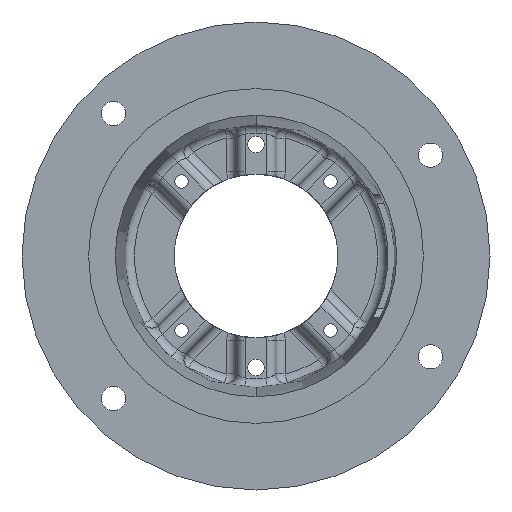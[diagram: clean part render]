
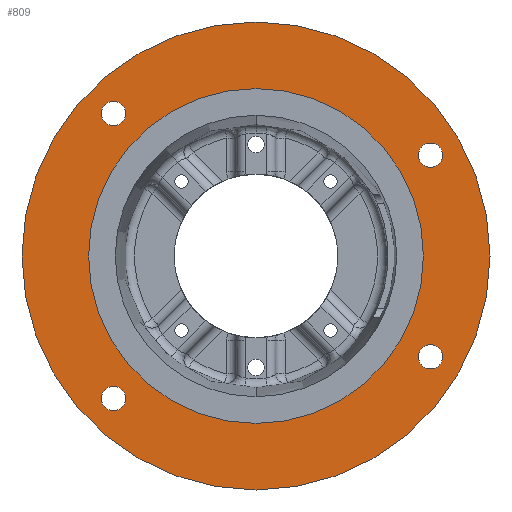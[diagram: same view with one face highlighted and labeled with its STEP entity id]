
A CAD part, front view. The second image highlights one B-rep face of the part: STEP entity #809.
In plain terms, the highlighted planar face has unit normal (0, -1, 0).
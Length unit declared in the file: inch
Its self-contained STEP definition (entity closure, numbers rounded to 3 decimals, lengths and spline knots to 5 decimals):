
#106 = CIRCLE ( 'NONE', #4199, 4.5 ) ;
#118 = CARTESIAN_POINT ( 'NONE',  ( 0., 0., 3.2195 ) ) ;
#171 = CARTESIAN_POINT ( 'NONE',  ( 3.35585, 0., -1.70312 ) ) ;
#178 = ORIENTED_EDGE ( 'NONE', *, *, #4939, .F. ) ;
#211 = ORIENTED_EDGE ( 'NONE', *, *, #4820, .F. ) ;
#241 = AXIS2_PLACEMENT_3D ( 'NONE', #5957, #5695, #5667 ) ;
#469 = EDGE_CURVE ( 'NONE', #3183, #2778, #1679, .T. ) ;
#599 = CIRCLE ( 'NONE', #887, 0.23438 ) ;
#625 = AXIS2_PLACEMENT_3D ( 'NONE', #2196, #2189, #2164 ) ;
#628 = FACE_OUTER_BOUND ( 'NONE', #2964, .T. ) ;
#656 = EDGE_LOOP ( 'NONE', ( #178, #4675 ) ) ;
#680 = AXIS2_PLACEMENT_3D ( 'NONE', #5792, #5791, #5784 ) ;
#764 = VERTEX_POINT ( 'NONE', #3947 ) ;
#809 = ADVANCED_FACE ( 'NONE', ( #4704, #6030, #4877, #3337, #1982, #628 ), #6156, .F. ) ;
#853 = CIRCLE ( 'NONE', #5675, 0.23437 ) ;
#871 = VERTEX_POINT ( 'NONE', #2129 ) ;
#878 = VERTEX_POINT ( 'NONE', #1727 ) ;
#887 = AXIS2_PLACEMENT_3D ( 'NONE', #4739, #4736, #4729 ) ;
#1280 = VERTEX_POINT ( 'NONE', #5132 ) ;
#1314 = CIRCLE ( 'NONE', #1551, 3.2195 ) ;
#1391 = CIRCLE ( 'NONE', #680, 0.23438 ) ;
#1405 = CIRCLE ( 'NONE', #3820, 0.23438 ) ;
#1551 = AXIS2_PLACEMENT_3D ( 'NONE', #4052, #4044, #4043 ) ;
#1679 = CIRCLE ( 'NONE', #625, 4.5 ) ;
#1727 = CARTESIAN_POINT ( 'NONE',  ( 3.35585, 0., -2.17187 ) ) ;
#1982 = FACE_BOUND ( 'NONE', #2239, .T. ) ;
#1984 = VERTEX_POINT ( 'NONE', #2826 ) ;
#2037 = AXIS2_PLACEMENT_3D ( 'NONE', #2431, #2422, #2419 ) ;
#2129 = CARTESIAN_POINT ( 'NONE',  ( 3.35585, 0., 1.70313 ) ) ;
#2164 = DIRECTION ( 'NONE',  ( 0., 0., -1. ) ) ;
#2180 = VERTEX_POINT ( 'NONE', #5464 ) ;
#2189 = DIRECTION ( 'NONE',  ( 0., -1., 0. ) ) ;
#2196 = CARTESIAN_POINT ( 'NONE',  ( 0., 0., 0. ) ) ;
#2239 = EDGE_LOOP ( 'NONE', ( #3622, #6351 ) ) ;
#2419 = DIRECTION ( 'NONE',  ( 0., 0., -1. ) ) ;
#2422 = DIRECTION ( 'NONE',  ( 0., -1., 0. ) ) ;
#2431 = CARTESIAN_POINT ( 'NONE',  ( 0., 0., 0. ) ) ;
#2505 = ORIENTED_EDGE ( 'NONE', *, *, #5520, .F. ) ;
#2636 = VERTEX_POINT ( 'NONE', #4931 ) ;
#2778 = VERTEX_POINT ( 'NONE', #5151 ) ;
#2779 = ORIENTED_EDGE ( 'NONE', *, *, #3527, .F. ) ;
#2826 = CARTESIAN_POINT ( 'NONE',  ( 0., 0., -3.2195 ) ) ;
#2964 = EDGE_LOOP ( 'NONE', ( #6330, #3975 ) ) ;
#2992 = DIRECTION ( 'NONE',  ( 0., 0., -1. ) ) ;
#3001 = DIRECTION ( 'NONE',  ( 0., -1., 0. ) ) ;
#3003 = CARTESIAN_POINT ( 'NONE',  ( 3.35585, 0., 1.9375 ) ) ;
#3007 = VERTEX_POINT ( 'NONE', #118 ) ;
#3049 = AXIS2_PLACEMENT_3D ( 'NONE', #5569, #5561, #5554 ) ;
#3161 = DIRECTION ( 'NONE',  ( 0., 0., -1. ) ) ;
#3181 = DIRECTION ( 'NONE',  ( 0., -1., 0. ) ) ;
#3183 = VERTEX_POINT ( 'NONE', #5700 ) ;
#3188 = CARTESIAN_POINT ( 'NONE',  ( 0., 0., 0. ) ) ;
#3337 = FACE_BOUND ( 'NONE', #5242, .T. ) ;
#3438 = CIRCLE ( 'NONE', #2037, 3.2195 ) ;
#3527 = EDGE_CURVE ( 'NONE', #2636, #5327, #3844, .T. ) ;
#3588 = DIRECTION ( 'NONE',  ( 0., 0., -1. ) ) ;
#3591 = DIRECTION ( 'NONE',  ( 0., -1., 0. ) ) ;
#3603 = CARTESIAN_POINT ( 'NONE',  ( 3.35585, 0., -1.9375 ) ) ;
#3622 = ORIENTED_EDGE ( 'NONE', *, *, #5128, .F. ) ;
#3624 = CARTESIAN_POINT ( 'NONE',  ( -2.74004, 0., 2.50566 ) ) ;
#3795 = DIRECTION ( 'NONE',  ( 0., 0., -1. ) ) ;
#3799 = DIRECTION ( 'NONE',  ( 0., -1., 0. ) ) ;
#3801 = CARTESIAN_POINT ( 'NONE',  ( -2.74004, 0., -2.74004 ) ) ;
#3804 = EDGE_CURVE ( 'NONE', #2778, #3183, #106, .T. ) ;
#3820 = AXIS2_PLACEMENT_3D ( 'NONE', #3003, #3001, #2992 ) ;
#3844 = CIRCLE ( 'NONE', #5716, 0.23438 ) ;
#3947 = CARTESIAN_POINT ( 'NONE',  ( -2.74004, 0., -2.50566 ) ) ;
#3955 = EDGE_CURVE ( 'NONE', #3007, #1984, #3438, .T. ) ;
#3975 = ORIENTED_EDGE ( 'NONE', *, *, #3804, .T. ) ;
#4043 = DIRECTION ( 'NONE',  ( 0., 0., -1. ) ) ;
#4044 = DIRECTION ( 'NONE',  ( 0., -1., 0. ) ) ;
#4052 = CARTESIAN_POINT ( 'NONE',  ( 0., 0., 0. ) ) ;
#4071 = AXIS2_PLACEMENT_3D ( 'NONE', #5307, #5297, #5293 ) ;
#4199 = AXIS2_PLACEMENT_3D ( 'NONE', #3188, #3181, #3161 ) ;
#4290 = ORIENTED_EDGE ( 'NONE', *, *, #4899, .F. ) ;
#4519 = DIRECTION ( 'NONE',  ( 0., 0., -1. ) ) ;
#4524 = DIRECTION ( 'NONE',  ( 0., -1., 0. ) ) ;
#4536 = CARTESIAN_POINT ( 'NONE',  ( -2.74004, 0., 2.74004 ) ) ;
#4675 = ORIENTED_EDGE ( 'NONE', *, *, #5315, .F. ) ;
#4704 = FACE_BOUND ( 'NONE', #5083, .T. ) ;
#4729 = DIRECTION ( 'NONE',  ( 0., 0., -1. ) ) ;
#4736 = DIRECTION ( 'NONE',  ( 0., -1., 0. ) ) ;
#4739 = CARTESIAN_POINT ( 'NONE',  ( -2.74004, 0., 2.74004 ) ) ;
#4741 = EDGE_LOOP ( 'NONE', ( #4290, #5407 ) ) ;
#4778 = CIRCLE ( 'NONE', #6312, 0.23438 ) ;
#4820 = EDGE_CURVE ( 'NONE', #871, #1280, #1391, .T. ) ;
#4877 = FACE_BOUND ( 'NONE', #4741, .T. ) ;
#4899 = EDGE_CURVE ( 'NONE', #2180, #764, #6299, .T. ) ;
#4931 = CARTESIAN_POINT ( 'NONE',  ( -2.74004, 0., 2.97441 ) ) ;
#4939 = EDGE_CURVE ( 'NONE', #878, #6535, #6143, .T. ) ;
#5067 = EDGE_CURVE ( 'NONE', #5327, #2636, #599, .T. ) ;
#5083 = EDGE_LOOP ( 'NONE', ( #211, #2505 ) ) ;
#5128 = EDGE_CURVE ( 'NONE', #1984, #3007, #1314, .T. ) ;
#5132 = CARTESIAN_POINT ( 'NONE',  ( 3.35585, 0., 2.17188 ) ) ;
#5151 = CARTESIAN_POINT ( 'NONE',  ( 0., 0., 4.5 ) ) ;
#5214 = ORIENTED_EDGE ( 'NONE', *, *, #5067, .F. ) ;
#5222 = EDGE_CURVE ( 'NONE', #764, #2180, #853, .T. ) ;
#5242 = EDGE_LOOP ( 'NONE', ( #5214, #2779 ) ) ;
#5293 = DIRECTION ( 'NONE',  ( 0., 0., -1. ) ) ;
#5297 = DIRECTION ( 'NONE',  ( 0., -1., 0. ) ) ;
#5307 = CARTESIAN_POINT ( 'NONE',  ( 3.35585, 0., -1.9375 ) ) ;
#5315 = EDGE_CURVE ( 'NONE', #6535, #878, #4778, .T. ) ;
#5327 = VERTEX_POINT ( 'NONE', #3624 ) ;
#5407 = ORIENTED_EDGE ( 'NONE', *, *, #5222, .F. ) ;
#5464 = CARTESIAN_POINT ( 'NONE',  ( -2.74004, 0., -2.97441 ) ) ;
#5520 = EDGE_CURVE ( 'NONE', #1280, #871, #1405, .T. ) ;
#5554 = DIRECTION ( 'NONE',  ( 0., 0., -1. ) ) ;
#5561 = DIRECTION ( 'NONE',  ( 0., -1., 0. ) ) ;
#5569 = CARTESIAN_POINT ( 'NONE',  ( -2.74004, 0., -2.74004 ) ) ;
#5667 = DIRECTION ( 'NONE',  ( 0., 0., 1. ) ) ;
#5675 = AXIS2_PLACEMENT_3D ( 'NONE', #3801, #3799, #3795 ) ;
#5695 = DIRECTION ( 'NONE',  ( 0., 1., 0. ) ) ;
#5700 = CARTESIAN_POINT ( 'NONE',  ( 0., 0., -4.5 ) ) ;
#5716 = AXIS2_PLACEMENT_3D ( 'NONE', #4536, #4524, #4519 ) ;
#5784 = DIRECTION ( 'NONE',  ( 0., 0., -1. ) ) ;
#5791 = DIRECTION ( 'NONE',  ( 0., -1., 0. ) ) ;
#5792 = CARTESIAN_POINT ( 'NONE',  ( 3.35585, 0., 1.9375 ) ) ;
#5957 = CARTESIAN_POINT ( 'NONE',  ( -4.5, 0., 0. ) ) ;
#6030 = FACE_BOUND ( 'NONE', #656, .T. ) ;
#6143 = CIRCLE ( 'NONE', #4071, 0.23438 ) ;
#6156 = PLANE ( 'NONE',  #241 ) ;
#6299 = CIRCLE ( 'NONE', #3049, 0.23437 ) ;
#6312 = AXIS2_PLACEMENT_3D ( 'NONE', #3603, #3591, #3588 ) ;
#6330 = ORIENTED_EDGE ( 'NONE', *, *, #469, .T. ) ;
#6351 = ORIENTED_EDGE ( 'NONE', *, *, #3955, .F. ) ;
#6535 = VERTEX_POINT ( 'NONE', #171 ) ;
